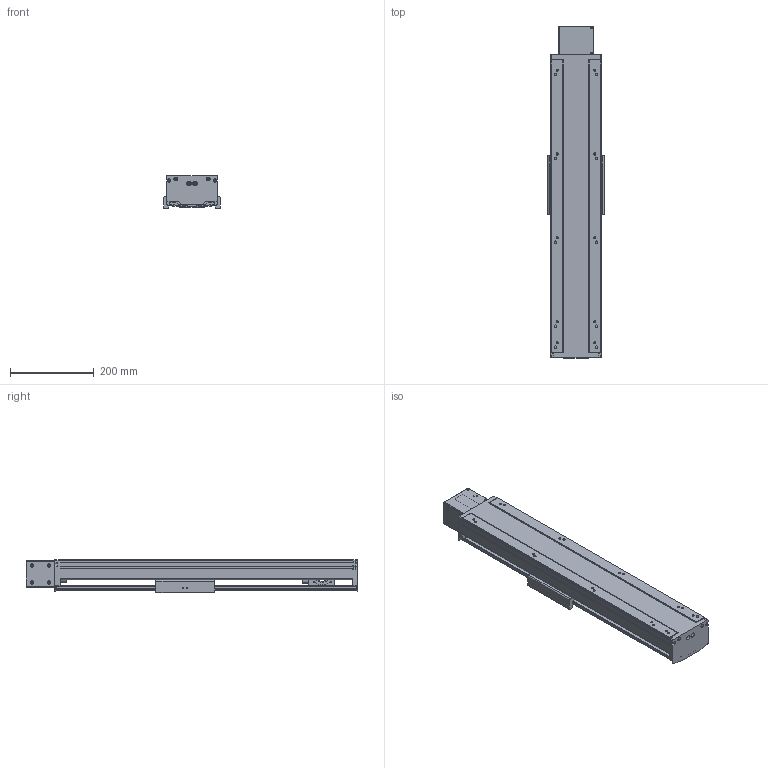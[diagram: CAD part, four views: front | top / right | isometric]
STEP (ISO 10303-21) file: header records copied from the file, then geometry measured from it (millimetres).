
FILE_DESCRIPTION(/* description */ (''),/* implementation_level */ '2;1');
FILE_NAME(/* name */ 'TKB120-FR-400_asm1_stp.stp',/* time_stamp */ '2016-06-28T16:00:16+08:00',/* author */ (''),/* organization */ (''),/* preprocessor_version */ 'ST-DEVELOPER v15',/* originating_system */ 'SIEMENS PLM Software NX 8.5',/* authorisation */ '');
FILE_SCHEMA (('AUTOMOTIVE_DESIGN { 1 0 10303 214 3 1 1 1 }'));
Length unit declared in the file: millimetre
Products named in the file (3): 200-2; 200-1; TKB120-FR-400_asm1_stp
Assembly tree (2 placements, depth 2):
  TKB120-FR-400_asm1_stp
    200-1
    200-2
Bounding box: 134 x 791 x 80 mm (x, y, z)
Volume: 2317593.6 mm3; surface area: 879957.8 mm2
Topology: 2 solids, 3 shells, 751 faces, 2127 edges, 1391 vertices
Faces by surface type: cylinder 363, plane 346, cone 42
Full cylindrical faces by diameter (mm): 2.5 x4, 3.3 x20, 4.2 x4, 4.5 x24, 5 x20, 5.5 x10, 6.6 x6, 6.8 x4, 7.5 x4, 8 x12, 9 x6, 9.75 x20, 10.5 x4, 11 x2, 12 x4, 14 x2, 17 x2, 35 x2, 40 x3, 50 x2, 52 x1
Entity records: 24124 total; most frequent: CARTESIAN_POINT 5025, DIRECTION 4039, ORIENTED_EDGE 3676, EDGE_CURVE 1838, AXIS2_PLACEMENT_3D 1526, VERTEX_POINT 1342, EDGE_LOOP 1098, LINE 987
